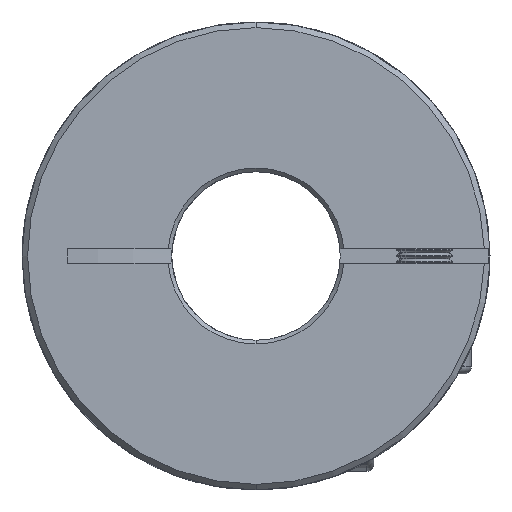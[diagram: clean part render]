
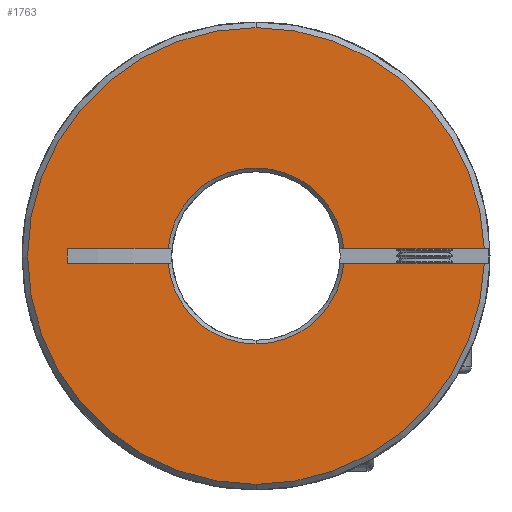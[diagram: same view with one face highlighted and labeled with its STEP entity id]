
A CAD part, front view. The second image highlights one B-rep face of the part: STEP entity #1763.
In plain terms, the highlighted planar face has unit normal (0, -1, 0).
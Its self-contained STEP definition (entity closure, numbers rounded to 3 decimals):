
#203 = CARTESIAN_POINT ( 'NONE',  ( 24.388, 0., 0.75 ) ) ;
#232 = EDGE_LOOP ( 'NONE', ( #9791, #733, #398, #14336, #13372, #15515, #5513, #464, #13277, #16921, #9234 ) ) ;
#398 = ORIENTED_EDGE ( 'NONE', *, *, #3771, .T. ) ;
#464 = ORIENTED_EDGE ( 'NONE', *, *, #10692, .T. ) ;
#733 = ORIENTED_EDGE ( 'NONE', *, *, #13884, .T. ) ;
#1097 = VECTOR ( 'NONE', #16725, 1000. ) ;
#1763 = ADVANCED_FACE ( 'NONE', ( #8014 ), #7638, .F. ) ;
#2296 = CARTESIAN_POINT ( 'NONE',  ( 0., 0., 0. ) ) ;
#2475 = CARTESIAN_POINT ( 'NONE',  ( 0., 0., 24.4 ) ) ;
#2562 = DIRECTION ( 'NONE',  ( 0., 0., 1. ) ) ;
#2982 = AXIS2_PLACEMENT_3D ( 'NONE', #3019, #15074, #6950 ) ;
#3019 = CARTESIAN_POINT ( 'NONE',  ( 0., 0., 0. ) ) ;
#3317 = CARTESIAN_POINT ( 'NONE',  ( -50., 0., -0.75 ) ) ;
#3523 = DIRECTION ( 'NONE',  ( 0., 0., 1. ) ) ;
#3543 = CARTESIAN_POINT ( 'NONE',  ( -9.37, 0., 0.75 ) ) ;
#3564 = EDGE_CURVE ( 'NONE', #17437, #14827, #13895, .T. ) ;
#3641 = DIRECTION ( 'NONE',  ( 1., 0., 0. ) ) ;
#3771 = EDGE_CURVE ( 'NONE', #11438, #14315, #12821, .T. ) ;
#3799 = EDGE_CURVE ( 'NONE', #14827, #7000, #4145, .T. ) ;
#3949 = DIRECTION ( 'NONE',  ( 0., 1., 0. ) ) ;
#4145 = CIRCLE ( 'NONE', #2982, 24.4 ) ;
#4326 = VERTEX_POINT ( 'NONE', #10341 ) ;
#4624 = CARTESIAN_POINT ( 'NONE',  ( -20.149, 0., -0.75 ) ) ;
#4713 = CARTESIAN_POINT ( 'NONE',  ( 24.388, 0., -0.75 ) ) ;
#4719 = CARTESIAN_POINT ( 'NONE',  ( 0., 0., -9.4 ) ) ;
#4798 = EDGE_CURVE ( 'NONE', #10350, #5058, #4953, .T. ) ;
#4889 = LINE ( 'NONE', #9363, #15266 ) ;
#4911 = CARTESIAN_POINT ( 'NONE',  ( -50., 0., 32.858 ) ) ;
#4953 = CIRCLE ( 'NONE', #7980, 9.4 ) ;
#5058 = VERTEX_POINT ( 'NONE', #13979 ) ;
#5192 = CARTESIAN_POINT ( 'NONE',  ( 0., 0., 0. ) ) ;
#5434 = AXIS2_PLACEMENT_3D ( 'NONE', #5192, #17413, #2562 ) ;
#5513 = ORIENTED_EDGE ( 'NONE', *, *, #4798, .T. ) ;
#5723 = VERTEX_POINT ( 'NONE', #4713 ) ;
#5747 = EDGE_CURVE ( 'NONE', #4326, #10350, #13614, .T. ) ;
#5763 = DIRECTION ( 'NONE',  ( 0., 0., 1. ) ) ;
#5772 = LINE ( 'NONE', #4624, #16166 ) ;
#6067 = AXIS2_PLACEMENT_3D ( 'NONE', #8594, #11417, #15452 ) ;
#6208 = DIRECTION ( 'NONE',  ( 1., 0., 0. ) ) ;
#6501 = AXIS2_PLACEMENT_3D ( 'NONE', #9158, #3949, #11944 ) ;
#6786 = CARTESIAN_POINT ( 'NONE',  ( -20.149, 0., -0.75 ) ) ;
#6812 = VERTEX_POINT ( 'NONE', #14253 ) ;
#6815 = CIRCLE ( 'NONE', #6067, 24.4 ) ;
#6950 = DIRECTION ( 'NONE',  ( 0., 0., 1. ) ) ;
#7000 = VERTEX_POINT ( 'NONE', #8090 ) ;
#7420 = DIRECTION ( 'NONE',  ( 0., 1., 0. ) ) ;
#7638 = PLANE ( 'NONE',  #14521 ) ;
#7847 = LINE ( 'NONE', #3317, #1097 ) ;
#7980 = AXIS2_PLACEMENT_3D ( 'NONE', #2296, #7420, #3523 ) ;
#8014 = FACE_OUTER_BOUND ( 'NONE', #232, .T. ) ;
#8090 = CARTESIAN_POINT ( 'NONE',  ( 0., 0., -24.4 ) ) ;
#8258 = VECTOR ( 'NONE', #6208, 1000. ) ;
#8594 = CARTESIAN_POINT ( 'NONE',  ( 0., 0., 0. ) ) ;
#8633 = CIRCLE ( 'NONE', #6501, 9.4 ) ;
#8875 = LINE ( 'NONE', #11551, #8258 ) ;
#8970 = VERTEX_POINT ( 'NONE', #6786 ) ;
#9158 = CARTESIAN_POINT ( 'NONE',  ( 0., 0., 0. ) ) ;
#9234 = ORIENTED_EDGE ( 'NONE', *, *, #16723, .T. ) ;
#9363 = CARTESIAN_POINT ( 'NONE',  ( -50., 0., 0.75 ) ) ;
#9791 = ORIENTED_EDGE ( 'NONE', *, *, #11340, .F. ) ;
#10341 = CARTESIAN_POINT ( 'NONE',  ( -20.149, 0., 0.75 ) ) ;
#10350 = VERTEX_POINT ( 'NONE', #3543 ) ;
#10391 = CARTESIAN_POINT ( 'NONE',  ( -9.37, 0., -0.75 ) ) ;
#10692 = EDGE_CURVE ( 'NONE', #5058, #17437, #4889, .T. ) ;
#10849 = VECTOR ( 'NONE', #3641, 1000. ) ;
#11340 = EDGE_CURVE ( 'NONE', #6812, #5723, #7847, .T. ) ;
#11417 = DIRECTION ( 'NONE',  ( 0., -1., 0. ) ) ;
#11438 = VERTEX_POINT ( 'NONE', #4719 ) ;
#11486 = DIRECTION ( 'NONE',  ( 0., 0., 1. ) ) ;
#11551 = CARTESIAN_POINT ( 'NONE',  ( -50., 0., -0.75 ) ) ;
#11944 = DIRECTION ( 'NONE',  ( 0., 0., 1. ) ) ;
#11960 = EDGE_CURVE ( 'NONE', #8970, #14315, #8875, .T. ) ;
#12009 = DIRECTION ( 'NONE',  ( 1., 0., 0. ) ) ;
#12821 = CIRCLE ( 'NONE', #15658, 9.4 ) ;
#13277 = ORIENTED_EDGE ( 'NONE', *, *, #3564, .T. ) ;
#13372 = ORIENTED_EDGE ( 'NONE', *, *, #16751, .T. ) ;
#13453 = DIRECTION ( 'NONE',  ( 0., 0., 1. ) ) ;
#13614 = LINE ( 'NONE', #17139, #10849 ) ;
#13663 = CARTESIAN_POINT ( 'NONE',  ( 0., 0., 0. ) ) ;
#13884 = EDGE_CURVE ( 'NONE', #6812, #11438, #8633, .T. ) ;
#13895 = CIRCLE ( 'NONE', #5434, 24.4 ) ;
#13897 = DIRECTION ( 'NONE',  ( 0., 1., 0. ) ) ;
#13979 = CARTESIAN_POINT ( 'NONE',  ( 9.37, 0., 0.75 ) ) ;
#14253 = CARTESIAN_POINT ( 'NONE',  ( 9.37, 0., -0.75 ) ) ;
#14315 = VERTEX_POINT ( 'NONE', #10391 ) ;
#14336 = ORIENTED_EDGE ( 'NONE', *, *, #11960, .F. ) ;
#14521 = AXIS2_PLACEMENT_3D ( 'NONE', #4911, #16217, #13453 ) ;
#14827 = VERTEX_POINT ( 'NONE', #2475 ) ;
#15074 = DIRECTION ( 'NONE',  ( 0., -1., 0. ) ) ;
#15266 = VECTOR ( 'NONE', #12009, 1000. ) ;
#15452 = DIRECTION ( 'NONE',  ( 0., 0., 1. ) ) ;
#15515 = ORIENTED_EDGE ( 'NONE', *, *, #5747, .T. ) ;
#15658 = AXIS2_PLACEMENT_3D ( 'NONE', #13663, #13897, #5763 ) ;
#16166 = VECTOR ( 'NONE', #11486, 1000. ) ;
#16217 = DIRECTION ( 'NONE',  ( 0., 1., 0. ) ) ;
#16723 = EDGE_CURVE ( 'NONE', #7000, #5723, #6815, .T. ) ;
#16725 = DIRECTION ( 'NONE',  ( 1., 0., 0. ) ) ;
#16751 = EDGE_CURVE ( 'NONE', #8970, #4326, #5772, .T. ) ;
#16921 = ORIENTED_EDGE ( 'NONE', *, *, #3799, .T. ) ;
#17139 = CARTESIAN_POINT ( 'NONE',  ( -50., 0., 0.75 ) ) ;
#17413 = DIRECTION ( 'NONE',  ( 0., -1., 0. ) ) ;
#17437 = VERTEX_POINT ( 'NONE', #203 ) ;
